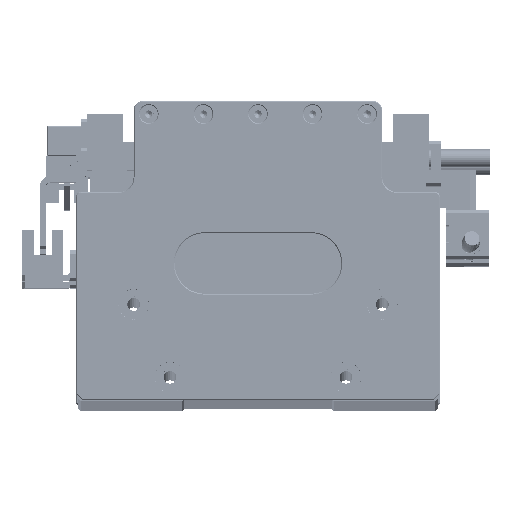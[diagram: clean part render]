
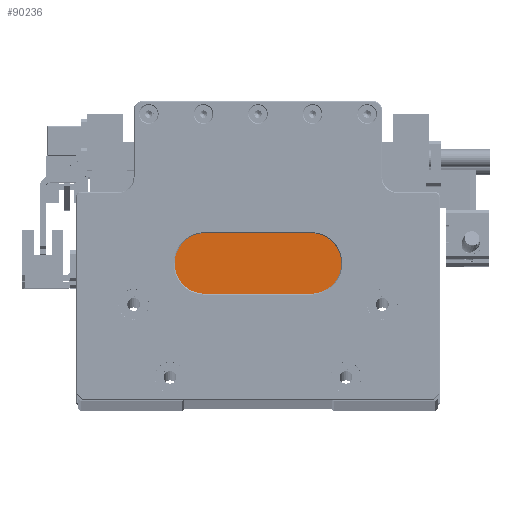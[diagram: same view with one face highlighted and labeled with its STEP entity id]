
A CAD part, top view. The second image highlights one B-rep face of the part: STEP entity #90236.
In plain terms, the highlighted planar face has unit normal (0, 0, 1).
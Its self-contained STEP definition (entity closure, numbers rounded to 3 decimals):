
#942 = LINE ( 'NONE', #88798, #80255 ) ;
#1740 = AXIS2_PLACEMENT_3D ( 'NONE', #65781, #3818, #76166 ) ;
#1819 = CARTESIAN_POINT ( 'NONE',  ( -34.432, -9.023, 375. ) ) ;
#3167 = CARTESIAN_POINT ( 'NONE',  ( 13.868, -17.023, 375. ) ) ;
#3818 = DIRECTION ( 'NONE',  ( 0., 0., -1. ) ) ;
#6179 = EDGE_LOOP ( 'NONE', ( #12782, #121770 ) ) ;
#10072 = EDGE_CURVE ( 'NONE', #43041, #58755, #128105, .T. ) ;
#12119 = DIRECTION ( 'NONE',  ( -1., 0., 0. ) ) ;
#12190 = DIRECTION ( 'NONE',  ( 0., -1., 0. ) ) ;
#12782 = ORIENTED_EDGE ( 'NONE', *, *, #109522, .T. ) ;
#14190 = EDGE_CURVE ( 'NONE', #23877, #86571, #104776, .T. ) ;
#15537 = VERTEX_POINT ( 'NONE', #53222 ) ;
#18122 = VECTOR ( 'NONE', #133771, 1000. ) ;
#18666 = LINE ( 'NONE', #60745, #125367 ) ;
#19565 = DIRECTION ( 'NONE',  ( 0., 1., 0. ) ) ;
#19715 = VERTEX_POINT ( 'NONE', #115966 ) ;
#20799 = EDGE_CURVE ( 'NONE', #52224, #15537, #109830, .T. ) ;
#23877 = VERTEX_POINT ( 'NONE', #58670 ) ;
#23951 = FACE_OUTER_BOUND ( 'NONE', #49368, .T. ) ;
#25741 = CIRCLE ( 'NONE', #122644, 1.25 ) ;
#27128 = CARTESIAN_POINT ( 'NONE',  ( -4.632, -9.223, 375. ) ) ;
#27606 = ORIENTED_EDGE ( 'NONE', *, *, #96252, .T. ) ;
#27663 = VERTEX_POINT ( 'NONE', #93598 ) ;
#28202 = CARTESIAN_POINT ( 'NONE',  ( 25.168, -9.023, 375. ) ) ;
#30496 = EDGE_LOOP ( 'NONE', ( #120777, #27606 ) ) ;
#30990 = CARTESIAN_POINT ( 'NONE',  ( -23.132, -9.023, 375. ) ) ;
#32366 = LINE ( 'NONE', #30990, #56622 ) ;
#32367 = AXIS2_PLACEMENT_3D ( 'NONE', #87878, #67071, #36381 ) ;
#34180 = CARTESIAN_POINT ( 'NONE',  ( -10.882, -17.023, 375. ) ) ;
#34638 = VECTOR ( 'NONE', #12119, 1000. ) ;
#34914 = VECTOR ( 'NONE', #78653, 1000. ) ;
#36148 = VERTEX_POINT ( 'NONE', #125303 ) ;
#36366 = VERTEX_POINT ( 'NONE', #78770 ) ;
#36381 = DIRECTION ( 'NONE',  ( 1., 0., 0. ) ) ;
#37022 = CARTESIAN_POINT ( 'NONE',  ( 25.168, -17.023, 375. ) ) ;
#37038 = ORIENTED_EDGE ( 'NONE', *, *, #10072, .T. ) ;
#38486 = EDGE_CURVE ( 'NONE', #58755, #36366, #18666, .T. ) ;
#38669 = DIRECTION ( 'NONE',  ( 0., 1., 0. ) ) ;
#42273 = EDGE_CURVE ( 'NONE', #27663, #43041, #87072, .T. ) ;
#43041 = VERTEX_POINT ( 'NONE', #37022 ) ;
#44852 = ORIENTED_EDGE ( 'NONE', *, *, #42273, .T. ) ;
#45037 = CARTESIAN_POINT ( 'NONE',  ( -12.132, -17.023, 375. ) ) ;
#48261 = FACE_BOUND ( 'NONE', #30496, .T. ) ;
#49368 = EDGE_LOOP ( 'NONE', ( #125596, #92866, #63226, #89923, #73647, #44852, #37038, #119496 ) ) ;
#51257 = CARTESIAN_POINT ( 'NONE',  ( -4.632, -17.023, 375. ) ) ;
#52224 = VERTEX_POINT ( 'NONE', #94031 ) ;
#52801 = CARTESIAN_POINT ( 'NONE',  ( 2.868, -17.023, 375. ) ) ;
#53222 = CARTESIAN_POINT ( 'NONE',  ( -34.432, -49.223, 375. ) ) ;
#55386 = DIRECTION ( 'NONE',  ( 1., 0., 0. ) ) ;
#55971 = CARTESIAN_POINT ( 'NONE',  ( 1.618, -17.023, 375. ) ) ;
#56260 = PLANE ( 'NONE',  #32367 ) ;
#56622 = VECTOR ( 'NONE', #92857, 1000. ) ;
#58670 = CARTESIAN_POINT ( 'NONE',  ( 4.118, -17.023, 375. ) ) ;
#58755 = VERTEX_POINT ( 'NONE', #3167 ) ;
#59921 = DIRECTION ( 'NONE',  ( 0., 0., -1. ) ) ;
#60745 = CARTESIAN_POINT ( 'NONE',  ( 13.868, -9.023, 375. ) ) ;
#63146 = DIRECTION ( 'NONE',  ( 1., 0., 0. ) ) ;
#63226 = ORIENTED_EDGE ( 'NONE', *, *, #119611, .T. ) ;
#65781 = CARTESIAN_POINT ( 'NONE',  ( -12.132, -17.023, 375. ) ) ;
#67071 = DIRECTION ( 'NONE',  ( 0., 0., 1. ) ) ;
#68589 = LINE ( 'NONE', #115178, #34638 ) ;
#71460 = AXIS2_PLACEMENT_3D ( 'NONE', #121737, #59921, #132102 ) ;
#71526 = AXIS2_PLACEMENT_3D ( 'NONE', #52801, #124975, #63146 ) ;
#72476 = CIRCLE ( 'NONE', #1740, 1.25 ) ;
#73647 = ORIENTED_EDGE ( 'NONE', *, *, #85134, .T. ) ;
#76166 = DIRECTION ( 'NONE',  ( 1., 0., 0. ) ) ;
#78653 = DIRECTION ( 'NONE',  ( -1., 0., 0. ) ) ;
#78770 = CARTESIAN_POINT ( 'NONE',  ( 13.868, -9.223, 375. ) ) ;
#80255 = VECTOR ( 'NONE', #99151, 1000. ) ;
#83786 = VECTOR ( 'NONE', #38669, 1000. ) ;
#85134 = EDGE_CURVE ( 'NONE', #15537, #27663, #942, .T. ) ;
#85722 = EDGE_CURVE ( 'NONE', #36366, #119101, #86642, .T. ) ;
#86571 = VERTEX_POINT ( 'NONE', #55971 ) ;
#86642 = LINE ( 'NONE', #27128, #34914 ) ;
#87072 = LINE ( 'NONE', #28202, #83786 ) ;
#87878 = CARTESIAN_POINT ( 'NONE',  ( -4.632, -9.023, 375. ) ) ;
#88798 = CARTESIAN_POINT ( 'NONE',  ( -34.632, -49.223, 375. ) ) ;
#89923 = ORIENTED_EDGE ( 'NONE', *, *, #20799, .T. ) ;
#90236 = ADVANCED_FACE ( 'NONE', ( #23951, #48261, #127349 ), #56260, .T. ) ;
#92857 = DIRECTION ( 'NONE',  ( 0., -1., 0. ) ) ;
#92866 = ORIENTED_EDGE ( 'NONE', *, *, #96458, .T. ) ;
#93598 = CARTESIAN_POINT ( 'NONE',  ( 25.168, -49.223, 375. ) ) ;
#94031 = CARTESIAN_POINT ( 'NONE',  ( -34.432, -17.023, 375. ) ) ;
#96252 = EDGE_CURVE ( 'NONE', #86571, #23877, #130873, .T. ) ;
#96458 = EDGE_CURVE ( 'NONE', #119101, #19715, #32366, .T. ) ;
#99151 = DIRECTION ( 'NONE',  ( 1., 0., 0. ) ) ;
#104776 = CIRCLE ( 'NONE', #71526, 1.25 ) ;
#109522 = EDGE_CURVE ( 'NONE', #131534, #36148, #25741, .T. ) ;
#109830 = LINE ( 'NONE', #1819, #133932 ) ;
#115178 = CARTESIAN_POINT ( 'NONE',  ( -4.632, -17.023, 375. ) ) ;
#115275 = CARTESIAN_POINT ( 'NONE',  ( -23.132, -9.223, 375. ) ) ;
#115966 = CARTESIAN_POINT ( 'NONE',  ( -23.132, -17.023, 375. ) ) ;
#117217 = DIRECTION ( 'NONE',  ( 0., 0., -1. ) ) ;
#119101 = VERTEX_POINT ( 'NONE', #115275 ) ;
#119496 = ORIENTED_EDGE ( 'NONE', *, *, #38486, .T. ) ;
#119611 = EDGE_CURVE ( 'NONE', #19715, #52224, #68589, .T. ) ;
#120777 = ORIENTED_EDGE ( 'NONE', *, *, #14190, .T. ) ;
#121737 = CARTESIAN_POINT ( 'NONE',  ( 2.868, -17.023, 375. ) ) ;
#121770 = ORIENTED_EDGE ( 'NONE', *, *, #123816, .T. ) ;
#122644 = AXIS2_PLACEMENT_3D ( 'NONE', #45037, #117217, #55386 ) ;
#123816 = EDGE_CURVE ( 'NONE', #36148, #131534, #72476, .T. ) ;
#124975 = DIRECTION ( 'NONE',  ( 0., 0., -1. ) ) ;
#125303 = CARTESIAN_POINT ( 'NONE',  ( -13.382, -17.023, 375. ) ) ;
#125367 = VECTOR ( 'NONE', #19565, 1000. ) ;
#125596 = ORIENTED_EDGE ( 'NONE', *, *, #85722, .T. ) ;
#127349 = FACE_BOUND ( 'NONE', #6179, .T. ) ;
#128105 = LINE ( 'NONE', #51257, #18122 ) ;
#130873 = CIRCLE ( 'NONE', #71460, 1.25 ) ;
#131534 = VERTEX_POINT ( 'NONE', #34180 ) ;
#132102 = DIRECTION ( 'NONE',  ( 1., 0., 0. ) ) ;
#133771 = DIRECTION ( 'NONE',  ( -1., 0., 0. ) ) ;
#133932 = VECTOR ( 'NONE', #12190, 1000. ) ;
